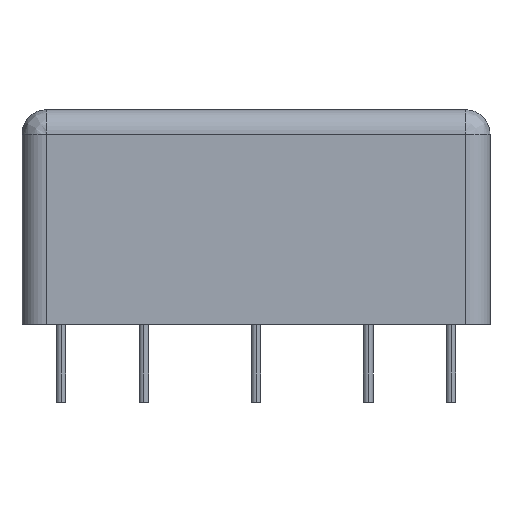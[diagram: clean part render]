
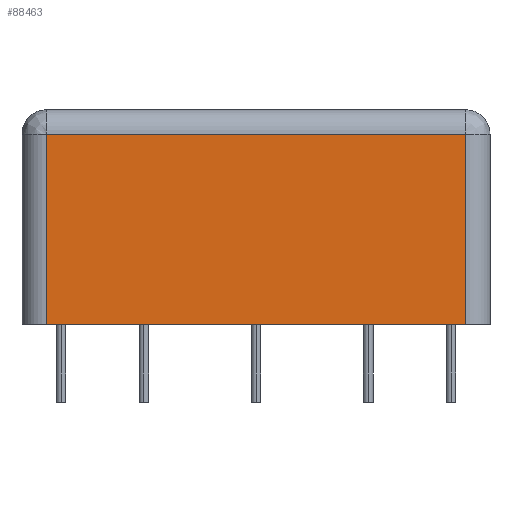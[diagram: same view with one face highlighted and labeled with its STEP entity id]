
A CAD part, front view. The second image highlights one B-rep face of the part: STEP entity #88463.
In plain terms, the highlighted planar face has unit normal (0, -1, 0) as drawn and (1, 0, 0) by its records, which use the part's own axes.
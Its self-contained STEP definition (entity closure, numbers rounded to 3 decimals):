
#1175 = CARTESIAN_POINT ( 'NONE',  ( 35., -21.5, 22. ) ) ;
#4445 = CARTESIAN_POINT ( 'NONE',  ( 35., 24., 19.5 ) ) ;
#7077 = ORIENTED_EDGE ( 'NONE', *, *, #84313, .F. ) ;
#13882 = CARTESIAN_POINT ( 'NONE',  ( 35., 24., 22. ) ) ;
#15255 = DIRECTION ( 'NONE',  ( 0., 1., 0. ) ) ;
#15818 = CARTESIAN_POINT ( 'NONE',  ( 35., 21.5, 19.5 ) ) ;
#16974 = LINE ( 'NONE', #4445, #73905 ) ;
#18721 = ORIENTED_EDGE ( 'NONE', *, *, #76000, .T. ) ;
#21565 = CARTESIAN_POINT ( 'NONE',  ( 35., 21.5, 22. ) ) ;
#24597 = DIRECTION ( 'NONE',  ( 0., -1., 0. ) ) ;
#36526 = LINE ( 'NONE', #21565, #93414 ) ;
#46995 = DIRECTION ( 'NONE',  ( 0., 0., 1. ) ) ;
#49248 = VERTEX_POINT ( 'NONE', #136211 ) ;
#52012 = VERTEX_POINT ( 'NONE', #15818 ) ;
#56394 = EDGE_CURVE ( 'NONE', #49248, #52012, #16974, .T. ) ;
#56655 = LINE ( 'NONE', #1175, #85096 ) ;
#60806 = CARTESIAN_POINT ( 'NONE',  ( 35., -21.5, 0. ) ) ;
#63423 = CARTESIAN_POINT ( 'NONE',  ( 35., -24., 0. ) ) ;
#66443 = ORIENTED_EDGE ( 'NONE', *, *, #56394, .F. ) ;
#73905 = VECTOR ( 'NONE', #15255, 1000. ) ;
#76000 = EDGE_CURVE ( 'NONE', #100580, #90148, #112633, .T. ) ;
#78639 = EDGE_LOOP ( 'NONE', ( #85153, #18721, #7077, #66443 ) ) ;
#84313 = EDGE_CURVE ( 'NONE', #52012, #90148, #36526, .T. ) ;
#85096 = VECTOR ( 'NONE', #46995, 1000. ) ;
#85153 = ORIENTED_EDGE ( 'NONE', *, *, #101473, .F. ) ;
#87497 = VECTOR ( 'NONE', #95651, 1000. ) ;
#88463 = ADVANCED_FACE ( 'NONE', ( #117846 ), #109773, .F. ) ;
#88657 = DIRECTION ( 'NONE',  ( -1., 0., 0. ) ) ;
#90148 = VERTEX_POINT ( 'NONE', #100235 ) ;
#93414 = VECTOR ( 'NONE', #96362, 1000. ) ;
#95651 = DIRECTION ( 'NONE',  ( 0., 1., 0. ) ) ;
#96362 = DIRECTION ( 'NONE',  ( 0., 0., -1. ) ) ;
#100235 = CARTESIAN_POINT ( 'NONE',  ( 35., 21.5, 0. ) ) ;
#100580 = VERTEX_POINT ( 'NONE', #60806 ) ;
#101473 = EDGE_CURVE ( 'NONE', #100580, #49248, #56655, .T. ) ;
#109773 = PLANE ( 'NONE',  #118344 ) ;
#112633 = LINE ( 'NONE', #63423, #87497 ) ;
#117846 = FACE_OUTER_BOUND ( 'NONE', #78639, .T. ) ;
#118344 = AXIS2_PLACEMENT_3D ( 'NONE', #13882, #88657, #24597 ) ;
#136211 = CARTESIAN_POINT ( 'NONE',  ( 35., -21.5, 19.5 ) ) ;
